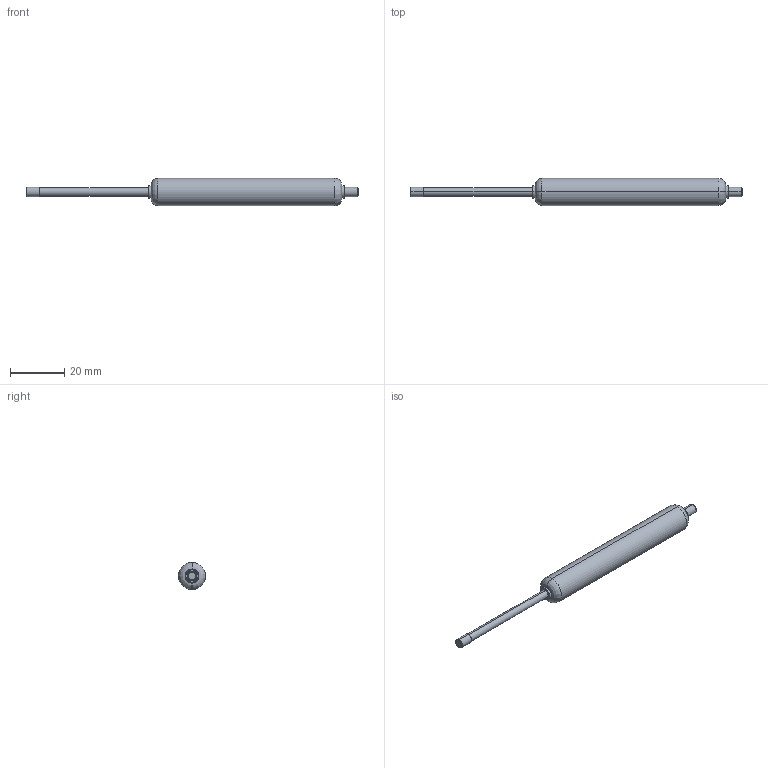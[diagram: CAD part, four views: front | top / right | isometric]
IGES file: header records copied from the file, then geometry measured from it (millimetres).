
Start section: SolidWorks IGES file using analytic representation for surfaces
Bounding box: 122 x 10 x 10 mm (x, y, z)
Surface area: 2799.4 mm2 (no closed solid volume)
Topology: 0 solids, 0 shells, 27 faces, 464 edges, 464 vertices
Faces by surface type: revolution 16, bspline 11
